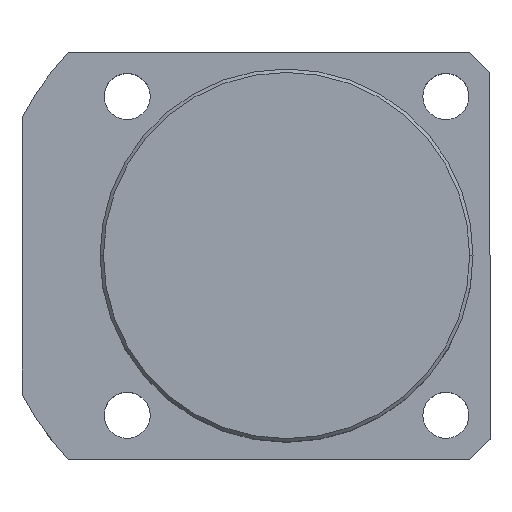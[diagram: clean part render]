
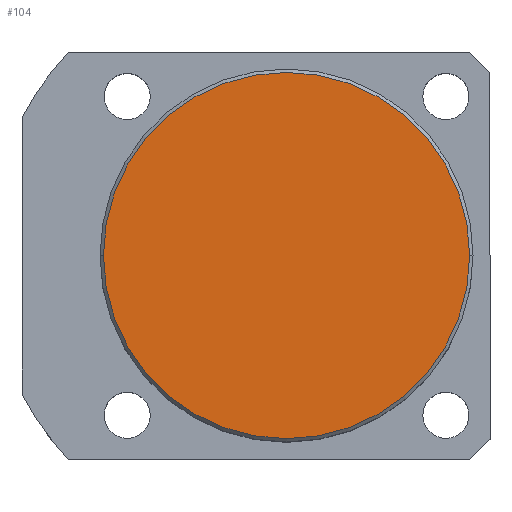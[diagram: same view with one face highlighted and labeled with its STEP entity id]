
A CAD part, top view. The second image highlights one B-rep face of the part: STEP entity #104.
In plain terms, the highlighted planar face has unit normal (0, 0, 1).
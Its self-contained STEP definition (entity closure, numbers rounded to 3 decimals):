
#88 = CARTESIAN_POINT ( 'NONE',  ( 0., 0., 40. ) ) ;
#104 = ADVANCED_FACE ( 'NONE', ( #1364 ), #261, .T. ) ;
#170 = CARTESIAN_POINT ( 'NONE',  ( 27., 0., 40. ) ) ;
#246 = VERTEX_POINT ( 'NONE', #170 ) ;
#261 = PLANE ( 'NONE',  #778 ) ;
#294 = EDGE_LOOP ( 'NONE', ( #1673, #516 ) ) ;
#388 = VERTEX_POINT ( 'NONE', #792 ) ;
#444 = EDGE_CURVE ( 'NONE', #246, #388, #1339, .T. ) ;
#516 = ORIENTED_EDGE ( 'NONE', *, *, #444, .T. ) ;
#559 = DIRECTION ( 'NONE',  ( 0., 0., 1. ) ) ;
#704 = CARTESIAN_POINT ( 'NONE',  ( 0., 0., 40. ) ) ;
#778 = AXIS2_PLACEMENT_3D ( 'NONE', #704, #1639, #1756 ) ;
#792 = CARTESIAN_POINT ( 'NONE',  ( -27., 0., 40. ) ) ;
#920 = AXIS2_PLACEMENT_3D ( 'NONE', #1267, #963, #1094 ) ;
#963 = DIRECTION ( 'NONE',  ( 0., 0., 1. ) ) ;
#1094 = DIRECTION ( 'NONE',  ( 1., 0., 0. ) ) ;
#1120 = EDGE_CURVE ( 'NONE', #388, #246, #1442, .T. ) ;
#1267 = CARTESIAN_POINT ( 'NONE',  ( 0., 0., 40. ) ) ;
#1339 = CIRCLE ( 'NONE', #920, 27. ) ;
#1364 = FACE_OUTER_BOUND ( 'NONE', #294, .T. ) ;
#1440 = DIRECTION ( 'NONE',  ( 1., 0., 0. ) ) ;
#1442 = CIRCLE ( 'NONE', #1955, 27. ) ;
#1639 = DIRECTION ( 'NONE',  ( 0., 0., 1. ) ) ;
#1673 = ORIENTED_EDGE ( 'NONE', *, *, #1120, .T. ) ;
#1756 = DIRECTION ( 'NONE',  ( 1., 0., 0. ) ) ;
#1955 = AXIS2_PLACEMENT_3D ( 'NONE', #88, #559, #1440 ) ;
